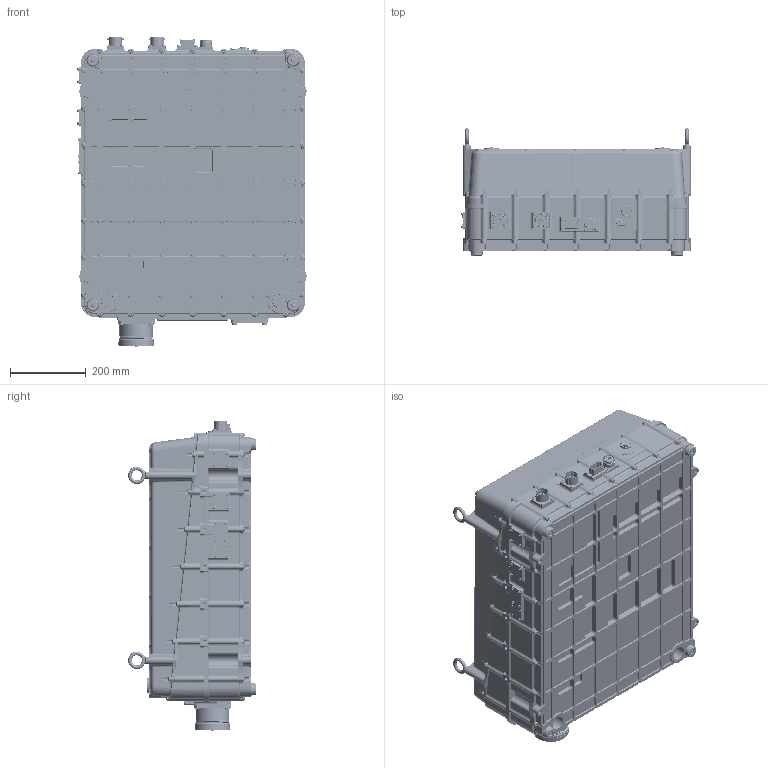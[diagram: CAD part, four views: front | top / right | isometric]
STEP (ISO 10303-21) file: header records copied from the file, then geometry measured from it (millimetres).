
FILE_DESCRIPTION (( 'STEP AP214' ), '1' );
FILE_NAME ('0C-0075-01.STEP', '2026-02-12T16:53:38', ( '' ), ( '' ), 'SwSTEP 2.0', 'SolidWorks 2022', '' );
FILE_SCHEMA (( 'AUTOMOTIVE_DESIGN' ));
Length unit declared in the file: millimetre
Products named in the file (23): MS90555C52612SW_Shell, Recept; 14-5005; 14-6002; 86-0347; CM-0786; PP-1238_3040T14; 18-0858-01; 18-0861-01; 86-0432; PP-1237_9405K72; 14-5017; 19-0053; 86-0350; HMI S70_SLDPRT; 19-0365_50925K444; 18-0849-01_solid; 18-0891-01; 18-0842-01_solid; 14-5042; 86-0451; 14-5029; 0C-0075-01; 14-5043
Assembly tree (153 placements, depth 2):
  0C-0075-01
    18-0842-01_solid
    18-0849-01_solid
    18-0858-01  x2
    18-0861-01
    HMI S70_SLDPRT
    MS90555C52612SW_Shell, Recept
    86-0350
    86-0347
    86-0451
    19-0053
    86-0432
    18-0891-01
    19-0365_50925K444  x2
    PP-1238_3040T14  x4
    PP-1237_9405K72  x4
    CM-0786  x2
    14-5029  x4
    14-5043  x56
    14-5042  x36
    14-5017  x24
    14-6002  x4
    14-5005  x4
Bounding box: 606.8 x 338.2 x 818.34 mm (x, y, z)
Volume: 104600210.2 mm3; surface area: 3162836.8 mm2
Topology: 176 solids, 184 shells, 19796 faces, 49604 edges, 30203 vertices
Faces by surface type: cylinder 8218, plane 4211, torus 2919, cone 2518, bspline 1618, sphere 312
Entity records: 591238 total; most frequent: CARTESIAN_POINT 194633, DIRECTION 71571, ORIENTED_EDGE 71196, EDGE_CURVE 35598, AXIS2_PLACEMENT_3D 28170, VERTEX_POINT 21970, CIRCLE 15291, LINE 15231
